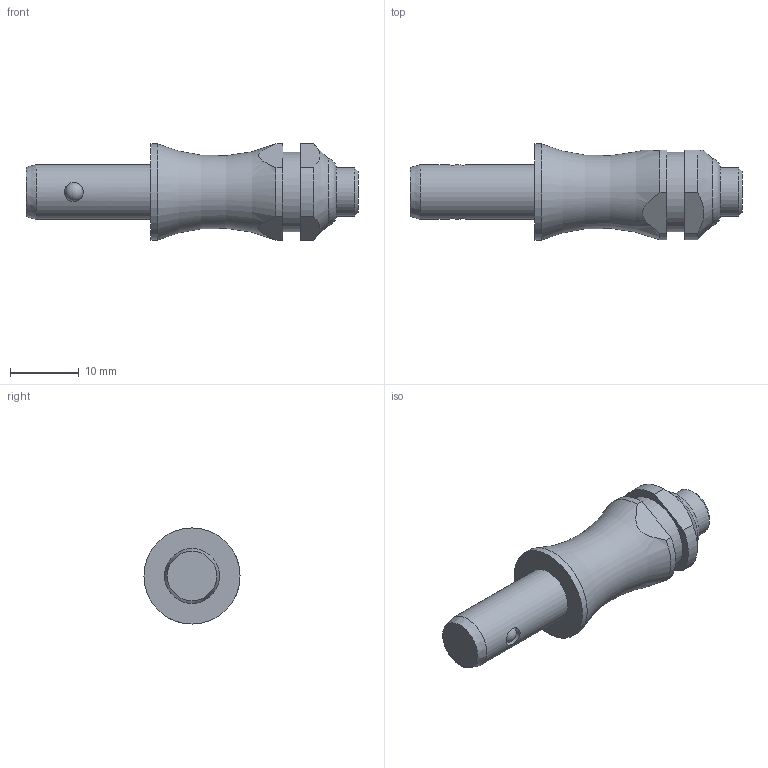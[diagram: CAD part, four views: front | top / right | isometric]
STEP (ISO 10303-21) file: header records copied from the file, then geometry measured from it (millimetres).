
FILE_DESCRIPTION( ( 'STEP AP203' ), '1' );
FILE_NAME( 'C:/Temp/Ganter_Step_05_03_2020/data/3_1/gn113_3/Stainless Steel-Ball lock pin GN 113.3-8-10 (activated).stp', '2020-03-12T08:18:22', ( 'License CC BY-ND 4.0' ), ( 'CADENAS' ), ' ', 'PARTsolutions', ' ' );
FILE_SCHEMA( ( 'CONFIG_CONTROL_DESIGN' ) );
Length unit declared in the file: millimetre
Products named in the file (1): _Stainless Steel-Ball lock pin GN 113.3-8-10 (activated)
Bounding box: 48.35 x 14 x 14 mm (x, y, z)
Volume: 4004 mm3; surface area: 1875 mm2
Topology: 1 solids, 1 shells, 30 faces, 72 edges, 45 vertices
Faces by surface type: cylinder 12, plane 11, cone 3, torus 2, sphere 2
Full cylindrical faces by diameter (mm): 2.78 x2, 7 x1, 8 x1, 11.6 x1, 14 x1
Entity records: 968 total; most frequent: CARTESIAN_POINT 321, DIRECTION 130, ORIENTED_EDGE 102, AXIS2_PLACEMENT_3D 56, EDGE_CURVE 51, EDGE_LOOP 46, VERTEX_POINT 39, FACE_OUTER_BOUND 38
